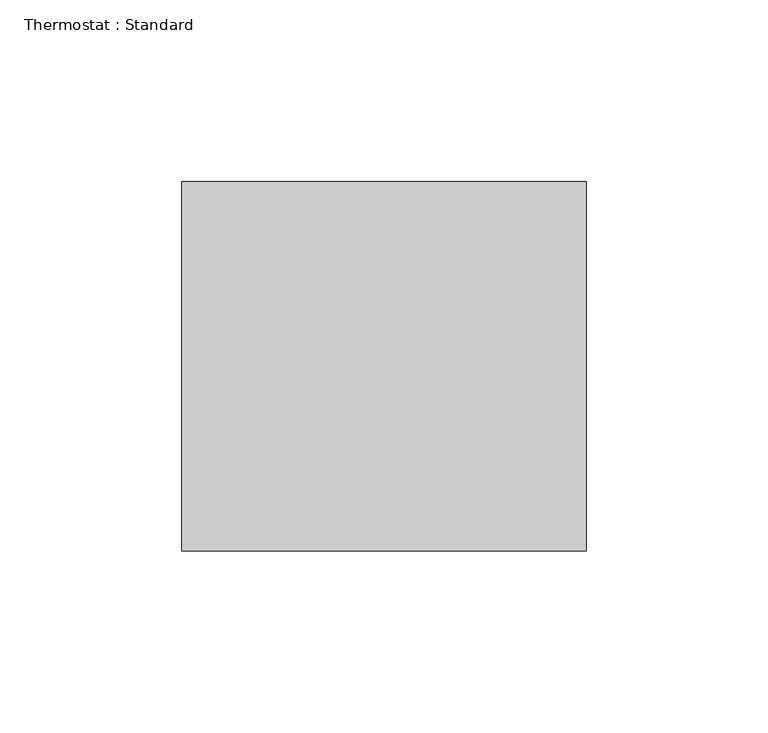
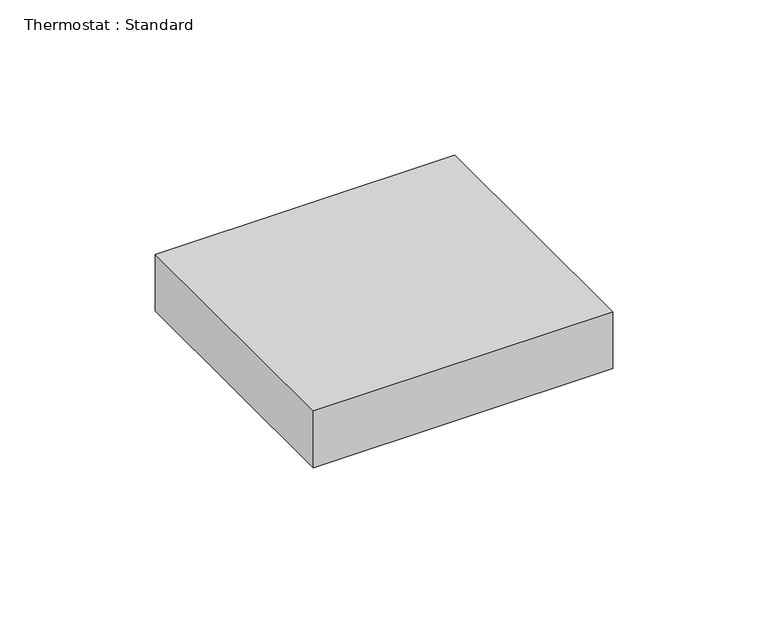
"""IFC4 building model written with IfcOpenShell, lengths in millimetres: proxy geometry, Thermostat : Standard."""

from ifc_helpers import new_model, si_unit, origin, origin_with_axes, place, context, project, spatial, polyline, outline, extrude, source, transform, mapped, element, save


def thermostat_standard_f74bcfa9(model_context):
    return source(origin(), model_context, "Body", "SweptSolid", [
        extrude(outline(polyline([(55.5625, -101.6), (-55.5625, -101.6), (-55.5625, 0.0), (55.5625, 0.0), (55.5625, -101.6)])), origin_with_axes(), (0.0, 0.0, 1.0), 22.225),
    ])


if __name__ == "__main__":
    model = new_model("IFC4")
    model_context = context("Model", 3, world=origin())
    ifc_project = project(units=[si_unit("LENGTHUNIT", "METRE", prefix="MILLI")], contexts=[model_context])
    site = spatial("IfcSite", under=ifc_project)
    building = spatial("IfcBuilding", under=site)
    placement = place(None, origin())
    thermostat_standard_shape = thermostat_standard_f74bcfa9(model_context)
    element("IfcBuildingElementProxy", 1, Name="Thermostat : Standard", ObjectType="Thermostat : Standard", at=placement, inside=building, context=model_context, shape_type="MappedRepresentation", body=[
        mapped(thermostat_standard_shape, transform((0.0, 0.0, 0.0), x_axis=(1.0, 0.0, 0.0), y_axis=(0.0, 1.0, 0.0), z_axis=(0.0, 0.0, 1.0))),
    ])
    save(model, "model.ifc")
